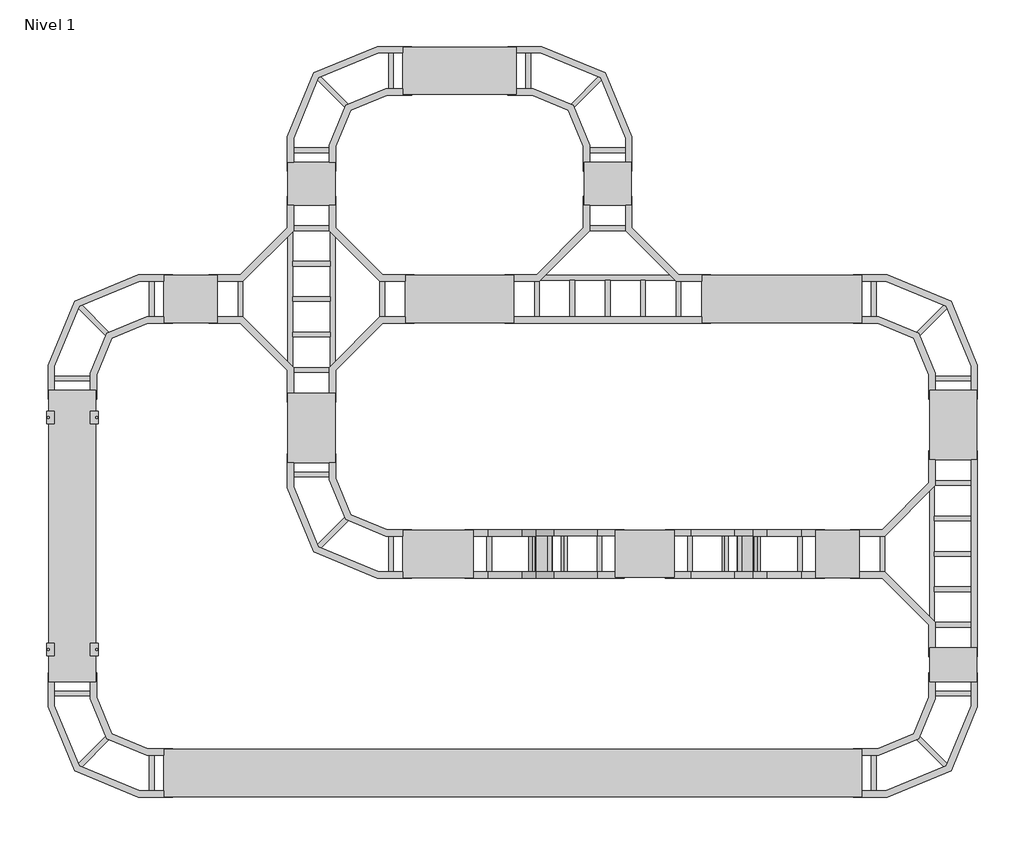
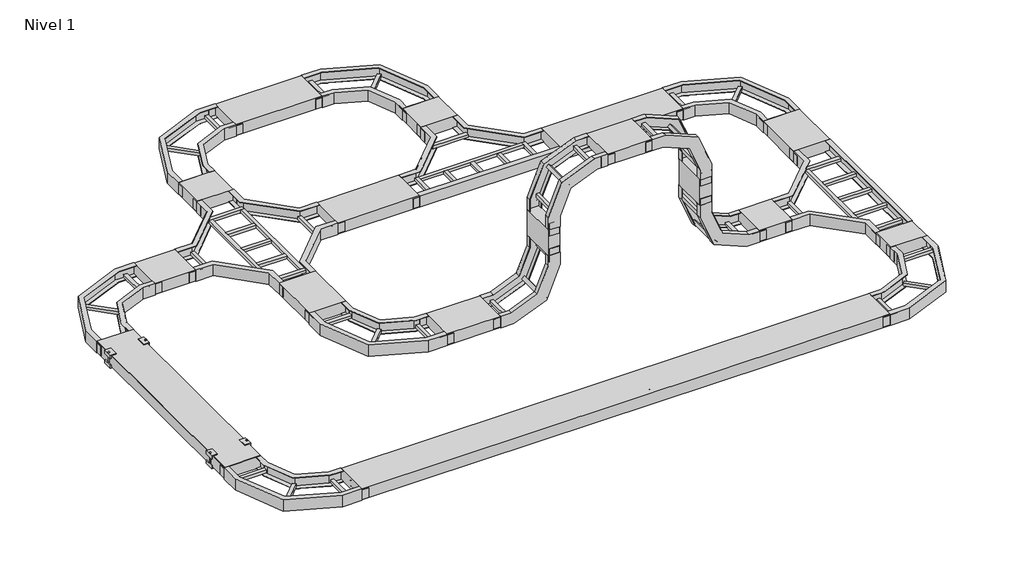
# One storey: 70 proxies, 16 cable carrier segments, 14 cable carrier fittings.
"""IFC4 building model written with IfcOpenShell, lengths in millimetres."""

from ifc_helpers import new_model, si_unit, frame, origin, place, context, project, spatial, polyline, outline, extrude, transform, mapped, element, save
from components import generic_models_9493494c, generic_models_a3b5af0d, generic_models_2f859a22, generic_models_482fbde5, cable_carrier_fitting_e89e6434, cable_carrier_fitting_75f20afa, cable_carrier_fitting_1d535282, cable_carrier_fitting_ade1a343, cable_carrier_fitting_ab937569

model = new_model("IFC4")

# Units and contexts
model_context = context("Model", 3, world=origin())
ifc_project = project(units=[si_unit("LENGTHUNIT", "METRE", prefix="MILLI")], contexts=[model_context])

# Site, building, storey
site = spatial("IfcSite", under=ifc_project)
building = spatial("IfcBuilding", under=site)
storey = spatial("IfcBuildingStorey", under=building, Name="Nivel 1", Elevation=0.0)

# Proxies
placement = place(None, origin())
generic_models_shape = generic_models_9493494c(model_context)
element("IfcBuildingElementProxy", 1, Name="Cable_Ladder_CoverRetainer_PTEFV_Fibertrav : Fibertrav PTEFV 4", ObjectType="Cable_Ladder_CoverRetainer_PTEFV_Fibertrav : Fibertrav PTEFV 4", at=placement, inside=storey, context=model_context, shape_type="MappedRepresentation", body=[
    mapped(generic_models_shape, transform((-12210.7457726, -1908.928521, -144.8359375), x_axis=(1.0, 0.0, 0.0), y_axis=(0.0, 1.0, 0.0), z_axis=(0.0, 0.0, 1.0))),
])
element("IfcBuildingElementProxy", 2, Name="Cable_Ladder_CoverRetainer_PTEFV_Fibertrav : Fibertrav PTEFV 4", ObjectType="Cable_Ladder_CoverRetainer_PTEFV_Fibertrav : Fibertrav PTEFV 4", at=placement, inside=storey, context=model_context, shape_type="MappedRepresentation", body=[
    mapped(generic_models_shape, transform((-12210.7457726, -412.1412529, -144.8359375), x_axis=(1.0, 0.0, 0.0), y_axis=(0.0, 1.0, 0.0), z_axis=(0.0, 0.0, 1.0))),
])
element("IfcBuildingElementProxy", 3, Name="Cable_Ladder_CoverRetainer_PTEFV_Fibertrav : Fibertrav PTEFV 4", ObjectType="Cable_Ladder_CoverRetainer_PTEFV_Fibertrav : Fibertrav PTEFV 4", at=placement, inside=storey, context=model_context, shape_type="MappedRepresentation", body=[
    mapped(generic_models_shape, transform((-11877.6975459, -1933.928521, -144.8359375), x_axis=(-1.0, 0.0, 0.0), y_axis=(0.0, -1.0, 0.0), z_axis=(0.0, 0.0, 1.0))),
])
element("IfcBuildingElementProxy", 4, Name="Cable_Ladder_CoverRetainer_PTEFV_Fibertrav : Fibertrav PTEFV 4", ObjectType="Cable_Ladder_CoverRetainer_PTEFV_Fibertrav : Fibertrav PTEFV 4", at=placement, inside=storey, context=model_context, shape_type="MappedRepresentation", body=[
    mapped(generic_models_shape, transform((-11877.6975459, -437.1412529, -144.8359375), x_axis=(-1.0, 0.0, 0.0), y_axis=(0.0, -1.0, 0.0), z_axis=(0.0, 0.0, 1.0))),
])
generic_models_2_shape = generic_models_a3b5af0d(model_context)
element("IfcBuildingElementProxy", 5, Name="Cable_Tray_Divider_Profile_PSEFV_Fibertrav : Fibertrav PSEFV 4", ObjectType="Cable_Tray_Divider_Profile_PSEFV_Fibertrav : Fibertrav PSEFV 4", at=placement, inside=storey, context=model_context, shape_type="MappedRepresentation", body=[
    mapped(generic_models_2_shape, transform((-11455.1074144, -2721.1606147, -221.4671875), x_axis=(0.0, -1.0, 0.0), y_axis=(1.0, 0.0, 0.0), z_axis=(0.0, 0.0, 1.0))),
])
generic_models_3_shape = generic_models_2f859a22(model_context)
element("IfcBuildingElementProxy", 6, Name="JUEFV_Juction_H4-Fibertrav : Fibertrav JUEFV 4", ObjectType="JUEFV_Juction_H4-Fibertrav : Fibertrav JUEFV 4", at=placement, inside=storey, context=model_context, shape_type="MappedRepresentation", body=[
    mapped(generic_models_3_shape, transform((-6514.202932, -1912.2385635, -241.935694), x_axis=(0.9999999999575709, 0.0, 9.211855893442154e-06), y_axis=(0.0, 1.0, 0.0), z_axis=(-9.211855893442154e-06, 0.0, 0.9999999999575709))),
])
element("IfcBuildingElementProxy", 7, Name="JUEFV_Juction_H4-Fibertrav : Fibertrav JUEFV 4", ObjectType="JUEFV_Juction_H4-Fibertrav : Fibertrav JUEFV 4", at=placement, inside=storey, context=model_context, shape_type="MappedRepresentation", body=[
    mapped(generic_models_3_shape, transform((-6205.402932, -1912.2385635, -241.9328494), x_axis=(0.9999999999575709, 0.0, 9.211855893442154e-06), y_axis=(0.0, 1.0, 0.0), z_axis=(-9.211855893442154e-06, 0.0, 0.9999999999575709))),
])
element("IfcBuildingElementProxy", 8, Name="JUEFV_Juction_H4-Fibertrav : Fibertrav JUEFV 4", ObjectType="JUEFV_Juction_H4-Fibertrav : Fibertrav JUEFV 4", at=placement, inside=storey, context=model_context, shape_type="MappedRepresentation", body=[
    mapped(generic_models_3_shape, transform((-6514.2029319, -697.8385635, -241.935694), x_axis=(0.9999999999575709, 0.0, 9.211855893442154e-06), y_axis=(0.0, 1.0, 0.0), z_axis=(-9.211855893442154e-06, 0.0, 0.9999999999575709))),
])
element("IfcBuildingElementProxy", 9, Name="JUEFV_Juction_H4-Fibertrav : Fibertrav JUEFV 4", ObjectType="JUEFV_Juction_H4-Fibertrav : Fibertrav JUEFV 4", at=placement, inside=storey, context=model_context, shape_type="MappedRepresentation", body=[
    mapped(generic_models_3_shape, transform((-6205.4029319, -697.8385635, -241.9328494), x_axis=(0.9999999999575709, 0.0, 9.211855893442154e-06), y_axis=(0.0, 1.0, 0.0), z_axis=(-9.211855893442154e-06, 0.0, 0.9999999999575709))),
])
element("IfcBuildingElementProxy", 10, Name="JUEFV_Juction_H4-Fibertrav : Fibertrav JUEFV 4", ObjectType="JUEFV_Juction_H4-Fibertrav : Fibertrav JUEFV 4", at=placement, inside=storey, context=model_context, shape_type="MappedRepresentation", body=[
    mapped(generic_models_3_shape, transform((-8744.7507738, 947.1216549, -241.9562415), x_axis=(0.9999999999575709, 0.0, 9.211855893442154e-06), y_axis=(0.0, 1.0, 0.0), z_axis=(-9.211855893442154e-06, 0.0, 0.9999999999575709))),
])
element("IfcBuildingElementProxy", 11, Name="JUEFV_Juction_H4-Fibertrav : Fibertrav JUEFV 4", ObjectType="JUEFV_Juction_H4-Fibertrav : Fibertrav JUEFV 4", at=placement, inside=storey, context=model_context, shape_type="MappedRepresentation", body=[
    mapped(generic_models_3_shape, transform((-8435.9507738, 947.1216549, -241.9533968), x_axis=(0.9999999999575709, 0.0, 9.211855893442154e-06), y_axis=(0.0, 1.0, 0.0), z_axis=(-9.211855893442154e-06, 0.0, 0.9999999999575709))),
])
element("IfcBuildingElementProxy", 12, Name="JUEFV_Juction_H4-Fibertrav : Fibertrav JUEFV 4", ObjectType="JUEFV_Juction_H4-Fibertrav : Fibertrav JUEFV 4", at=placement, inside=storey, context=model_context, shape_type="MappedRepresentation", body=[
    mapped(generic_models_3_shape, transform((-10657.2902635, 947.1216549, -241.9738595), x_axis=(0.9999999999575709, 0.0, 9.211855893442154e-06), y_axis=(0.0, 1.0, 0.0), z_axis=(-9.211855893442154e-06, 0.0, 0.9999999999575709))),
])
element("IfcBuildingElementProxy", 13, Name="JUEFV_Juction_H4-Fibertrav : Fibertrav JUEFV 4", ObjectType="JUEFV_Juction_H4-Fibertrav : Fibertrav JUEFV 4", at=placement, inside=storey, context=model_context, shape_type="MappedRepresentation", body=[
    mapped(generic_models_3_shape, transform((-10348.4902635, 947.1216549, -241.9710149), x_axis=(0.9999999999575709, 0.0, 9.211855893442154e-06), y_axis=(0.0, 1.0, 0.0), z_axis=(-9.211855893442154e-06, 0.0, 0.9999999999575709))),
])
element("IfcBuildingElementProxy", 14, Name="JUEFV_Juction_H4-Fibertrav : Fibertrav JUEFV 4", ObjectType="JUEFV_Juction_H4-Fibertrav : Fibertrav JUEFV 4", at=placement, inside=storey, context=model_context, shape_type="MappedRepresentation", body=[
    mapped(generic_models_3_shape, transform((-6964.6056568, -1461.0412884, -241.939843), x_axis=(0.0, 1.0000000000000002, 0.0), y_axis=(-0.9999999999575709, 0.0, -9.211855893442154e-06), z_axis=(-9.211855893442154e-06, 0.0, 0.9999999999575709))),
])
element("IfcBuildingElementProxy", 15, Name="JUEFV_Juction_H4-Fibertrav : Fibertrav JUEFV 4", ObjectType="JUEFV_Juction_H4-Fibertrav : Fibertrav JUEFV 4", at=placement, inside=storey, context=model_context, shape_type="MappedRepresentation", body=[
    mapped(generic_models_3_shape, transform((-6964.6056568, -1152.2412884, -241.939843), x_axis=(0.0, 1.0000000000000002, 0.0), y_axis=(-0.9999999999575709, 0.0, -9.211855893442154e-06), z_axis=(-9.211855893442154e-06, 0.0, 0.9999999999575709))),
])
element("IfcBuildingElementProxy", 16, Name="JUEFV_Juction_H4-Fibertrav : Fibertrav JUEFV 4", ObjectType="JUEFV_Juction_H4-Fibertrav : Fibertrav JUEFV 4", at=placement, inside=storey, context=model_context, shape_type="MappedRepresentation", body=[
    mapped(generic_models_3_shape, transform((-7244.4669991, -1461.0412884, -241.9424211), x_axis=(0.0, 1.0000000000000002, 0.0), y_axis=(-0.9999999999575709, 0.0, -9.211855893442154e-06), z_axis=(-9.211855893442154e-06, 0.0, 0.9999999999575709))),
])
element("IfcBuildingElementProxy", 17, Name="JUEFV_Juction_H4-Fibertrav : Fibertrav JUEFV 4", ObjectType="JUEFV_Juction_H4-Fibertrav : Fibertrav JUEFV 4", at=placement, inside=storey, context=model_context, shape_type="MappedRepresentation", body=[
    mapped(generic_models_3_shape, transform((-7244.4669991, -1152.2412884, -241.9424211), x_axis=(0.0, 1.0000000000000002, 0.0), y_axis=(-0.9999999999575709, 0.0, -9.211855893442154e-06), z_axis=(-9.211855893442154e-06, 0.0, 0.9999999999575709))),
])
element("IfcBuildingElementProxy", 18, Name="JUEFV_Juction_H4-Fibertrav : Fibertrav JUEFV 4", ObjectType="JUEFV_Juction_H4-Fibertrav : Fibertrav JUEFV 4", at=placement, inside=storey, context=model_context, shape_type="MappedRepresentation", body=[
    mapped(generic_models_3_shape, transform((-7980.7534988, 183.91893, -241.9492036), x_axis=(0.0, 1.0000000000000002, 0.0), y_axis=(-0.9999999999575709, 0.0, -9.211855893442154e-06), z_axis=(-9.211855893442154e-06, 0.0, 0.9999999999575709))),
])
element("IfcBuildingElementProxy", 19, Name="JUEFV_Juction_H4-Fibertrav : Fibertrav JUEFV 4", ObjectType="JUEFV_Juction_H4-Fibertrav : Fibertrav JUEFV 4", at=placement, inside=storey, context=model_context, shape_type="MappedRepresentation", body=[
    mapped(generic_models_3_shape, transform((-7980.7534988, 492.71893, -241.9492036), x_axis=(0.0, 1.0000000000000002, 0.0), y_axis=(-0.9999999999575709, 0.0, -9.211855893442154e-06), z_axis=(-9.211855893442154e-06, 0.0, 0.9999999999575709))),
])
element("IfcBuildingElementProxy", 20, Name="JUEFV_Juction_H4-Fibertrav : Fibertrav JUEFV 4", ObjectType="JUEFV_Juction_H4-Fibertrav : Fibertrav JUEFV 4", at=placement, inside=storey, context=model_context, shape_type="MappedRepresentation", body=[
    mapped(generic_models_3_shape, transform((-9195.1534987, 183.91893, -241.9603905), x_axis=(0.0, 1.0000000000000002, 0.0), y_axis=(-0.9999999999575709, 0.0, -9.211855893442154e-06), z_axis=(-9.211855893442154e-06, 0.0, 0.9999999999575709))),
])
element("IfcBuildingElementProxy", 21, Name="JUEFV_Juction_H4-Fibertrav : Fibertrav JUEFV 4", ObjectType="JUEFV_Juction_H4-Fibertrav : Fibertrav JUEFV 4", at=placement, inside=storey, context=model_context, shape_type="MappedRepresentation", body=[
    mapped(generic_models_3_shape, transform((-9195.1534987, 492.71893, -241.9603905), x_axis=(0.0, 1.0000000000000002, 0.0), y_axis=(-0.9999999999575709, 0.0, -9.211855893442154e-06), z_axis=(-9.211855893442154e-06, 0.0, 0.9999999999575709))),
])
element("IfcBuildingElementProxy", 22, Name="JUEFV_Juction_H4-Fibertrav : Fibertrav JUEFV 4", ObjectType="JUEFV_Juction_H4-Fibertrav : Fibertrav JUEFV 4", at=placement, inside=storey, context=model_context, shape_type="MappedRepresentation", body=[
    mapped(generic_models_3_shape, transform((-9893.2929885, 183.91893, -241.9668217), x_axis=(0.0, 1.0000000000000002, 0.0), y_axis=(-0.9999999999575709, 0.0, -9.211855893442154e-06), z_axis=(-9.211855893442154e-06, 0.0, 0.9999999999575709))),
])
element("IfcBuildingElementProxy", 23, Name="JUEFV_Juction_H4-Fibertrav : Fibertrav JUEFV 4", ObjectType="JUEFV_Juction_H4-Fibertrav : Fibertrav JUEFV 4", at=placement, inside=storey, context=model_context, shape_type="MappedRepresentation", body=[
    mapped(generic_models_3_shape, transform((-9893.2929885, 492.71893, -241.9668217), x_axis=(0.0, 1.0000000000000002, 0.0), y_axis=(-0.9999999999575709, 0.0, -9.211855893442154e-06), z_axis=(-9.211855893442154e-06, 0.0, 0.9999999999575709))),
])
element("IfcBuildingElementProxy", 24, Name="JUEFV_Juction_H4-Fibertrav : Fibertrav JUEFV 4", ObjectType="JUEFV_Juction_H4-Fibertrav : Fibertrav JUEFV 4", at=placement, inside=storey, context=model_context, shape_type="MappedRepresentation", body=[
    mapped(generic_models_3_shape, transform((-11107.6929884, 183.91893, -241.9780085), x_axis=(0.0, 1.0000000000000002, 0.0), y_axis=(-0.9999999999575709, 0.0, -9.211855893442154e-06), z_axis=(-9.211855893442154e-06, 0.0, 0.9999999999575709))),
])
element("IfcBuildingElementProxy", 25, Name="JUEFV_Juction_H4-Fibertrav : Fibertrav JUEFV 4", ObjectType="JUEFV_Juction_H4-Fibertrav : Fibertrav JUEFV 4", at=placement, inside=storey, context=model_context, shape_type="MappedRepresentation", body=[
    mapped(generic_models_3_shape, transform((-11107.6929884, 492.71893, -241.9780085), x_axis=(0.0, 1.0000000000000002, 0.0), y_axis=(-0.9999999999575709, 0.0, -9.211855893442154e-06), z_axis=(-9.211855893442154e-06, 0.0, 0.9999999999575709))),
])
element("IfcBuildingElementProxy", 26, Name="JUEFV_Juction_H4-Fibertrav : Fibertrav JUEFV 4", ObjectType="JUEFV_Juction_H4-Fibertrav : Fibertrav JUEFV 4", at=placement, inside=storey, context=model_context, shape_type="MappedRepresentation", body=[
    mapped(generic_models_3_shape, transform((-9454.2669987, -1461.0412884, -241.9627774), x_axis=(0.0, 1.0000000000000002, 0.0), y_axis=(-0.9999999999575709, 0.0, -9.211855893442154e-06), z_axis=(-9.211855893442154e-06, 0.0, 0.9999999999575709))),
])
element("IfcBuildingElementProxy", 27, Name="JUEFV_Juction_H4-Fibertrav : Fibertrav JUEFV 4", ObjectType="JUEFV_Juction_H4-Fibertrav : Fibertrav JUEFV 4", at=placement, inside=storey, context=model_context, shape_type="MappedRepresentation", body=[
    mapped(generic_models_3_shape, transform((-9454.2669987, -1152.2412884, -241.9627774), x_axis=(0.0, 1.0000000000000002, 0.0), y_axis=(-0.9999999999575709, 0.0, -9.211855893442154e-06), z_axis=(-9.211855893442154e-06, 0.0, 0.9999999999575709))),
])
element("IfcBuildingElementProxy", 28, Name="JUEFV_Juction_H4-Fibertrav : Fibertrav JUEFV 4", ObjectType="JUEFV_Juction_H4-Fibertrav : Fibertrav JUEFV 4", at=placement, inside=storey, context=model_context, shape_type="MappedRepresentation", body=[
    mapped(generic_models_3_shape, transform((-8539.8619481, -1461.0412884, 903.2079781), x_axis=(0.0, 1.0, 0.0), y_axis=(-1.0, 0.0, 0.0), z_axis=(0.0, 0.0, 1.0))),
])
element("IfcBuildingElementProxy", 29, Name="JUEFV_Juction_H4-Fibertrav : Fibertrav JUEFV 4", ObjectType="JUEFV_Juction_H4-Fibertrav : Fibertrav JUEFV 4", at=placement, inside=storey, context=model_context, shape_type="MappedRepresentation", body=[
    mapped(generic_models_3_shape, transform((-8539.8619481, -1152.2412884, 903.2079781), x_axis=(0.0, 1.0, 0.0), y_axis=(-1.0, 0.0, 0.0), z_axis=(0.0, 0.0, 1.0))),
])
element("IfcBuildingElementProxy", 30, Name="JUEFV_Juction_H4-Fibertrav : Fibertrav JUEFV 4", ObjectType="JUEFV_Juction_H4-Fibertrav : Fibertrav JUEFV 4", at=placement, inside=storey, context=model_context, shape_type="MappedRepresentation", body=[
    mapped(generic_models_3_shape, transform((-8158.8673978, -1461.0412884, 903.2079781), x_axis=(0.0, 1.0, 0.0), y_axis=(-1.0, 0.0, 0.0), z_axis=(0.0, 0.0, 1.0))),
])
element("IfcBuildingElementProxy", 31, Name="JUEFV_Juction_H4-Fibertrav : Fibertrav JUEFV 4", ObjectType="JUEFV_Juction_H4-Fibertrav : Fibertrav JUEFV 4", at=placement, inside=storey, context=model_context, shape_type="MappedRepresentation", body=[
    mapped(generic_models_3_shape, transform((-8158.8673978, -1152.2412884, 903.2079781), x_axis=(0.0, 1.0, 0.0), y_axis=(-1.0, 0.0, 0.0), z_axis=(0.0, 0.0, 1.0))),
])
element("IfcBuildingElementProxy", 32, Name="JUEFV_Juction_H4-Fibertrav : Fibertrav JUEFV 4", ObjectType="JUEFV_Juction_H4-Fibertrav : Fibertrav JUEFV 4", at=placement, inside=storey, context=model_context, shape_type="MappedRepresentation", body=[
    mapped(generic_models_3_shape, transform((-7658.764673, -1148.2412884, 489.710703), x_axis=(0.0, -1.0, 0.0), y_axis=(0.0, 0.0, 1.0), z_axis=(-1.0, 0.0, 0.0))),
])
element("IfcBuildingElementProxy", 33, Name="JUEFV_Juction_H4-Fibertrav : Fibertrav JUEFV 4", ObjectType="JUEFV_Juction_H4-Fibertrav : Fibertrav JUEFV 4", at=placement, inside=storey, context=model_context, shape_type="MappedRepresentation", body=[
    mapped(generic_models_3_shape, transform((-7658.764673, -1457.0412884, 489.710703), x_axis=(0.0, -1.0, 0.0), y_axis=(0.0, 0.0, 1.0), z_axis=(-1.0, 0.0, 0.0))),
])
element("IfcBuildingElementProxy", 34, Name="JUEFV_Juction_H4-Fibertrav : Fibertrav JUEFV 4", ObjectType="JUEFV_Juction_H4-Fibertrav : Fibertrav JUEFV 4", at=placement, inside=storey, context=model_context, shape_type="MappedRepresentation", body=[
    mapped(generic_models_3_shape, transform((-7658.764673, -1148.2412884, 258.1512496), x_axis=(0.0, -1.0, 0.0), y_axis=(0.0, 0.0, 1.0), z_axis=(-1.0, 0.0, 0.0))),
])
element("IfcBuildingElementProxy", 35, Name="JUEFV_Juction_H4-Fibertrav : Fibertrav JUEFV 4", ObjectType="JUEFV_Juction_H4-Fibertrav : Fibertrav JUEFV 4", at=placement, inside=storey, context=model_context, shape_type="MappedRepresentation", body=[
    mapped(generic_models_3_shape, transform((-7658.764673, -1457.0412884, 258.1512496), x_axis=(0.0, -1.0, 0.0), y_axis=(0.0, 0.0, 1.0), z_axis=(-1.0, 0.0, 0.0))),
])
element("IfcBuildingElementProxy", 36, Name="JUEFV_Juction_H4-Fibertrav : Fibertrav JUEFV 4", ObjectType="JUEFV_Juction_H4-Fibertrav : Fibertrav JUEFV 4", at=placement, inside=storey, context=model_context, shape_type="MappedRepresentation", body=[
    mapped(generic_models_3_shape, transform((-9040.764673, -1461.0412884, 489.710703), x_axis=(0.0, 1.0, 0.0), y_axis=(0.0, 0.0, 1.0), z_axis=(1.0, 0.0, 0.0))),
])
element("IfcBuildingElementProxy", 37, Name="JUEFV_Juction_H4-Fibertrav : Fibertrav JUEFV 4", ObjectType="JUEFV_Juction_H4-Fibertrav : Fibertrav JUEFV 4", at=placement, inside=storey, context=model_context, shape_type="MappedRepresentation", body=[
    mapped(generic_models_3_shape, transform((-9040.764673, -1152.2412884, 489.710703), x_axis=(0.0, 1.0, 0.0), y_axis=(0.0, 0.0, 1.0), z_axis=(1.0, 0.0, 0.0))),
])
element("IfcBuildingElementProxy", 38, Name="JUEFV_Juction_H4-Fibertrav : Fibertrav JUEFV 4", ObjectType="JUEFV_Juction_H4-Fibertrav : Fibertrav JUEFV 4", at=placement, inside=storey, context=model_context, shape_type="MappedRepresentation", body=[
    mapped(generic_models_3_shape, transform((-9040.764673, -1461.0412884, 258.1512496), x_axis=(0.0, 1.0, 0.0), y_axis=(0.0, 0.0, 1.0), z_axis=(1.0, 0.0, 0.0))),
])
element("IfcBuildingElementProxy", 39, Name="JUEFV_Juction_H4-Fibertrav : Fibertrav JUEFV 4", ObjectType="JUEFV_Juction_H4-Fibertrav : Fibertrav JUEFV 4", at=placement, inside=storey, context=model_context, shape_type="MappedRepresentation", body=[
    mapped(generic_models_3_shape, transform((-9040.764673, -1152.2412884, 258.1512496), x_axis=(0.0, 1.0, 0.0), y_axis=(0.0, 0.0, 1.0), z_axis=(1.0, 0.0, 0.0))),
])
element("IfcBuildingElementProxy", 40, Name="JUEFV_Juction_H4-Fibertrav : Fibertrav JUEFV 4", ObjectType="JUEFV_Juction_H4-Fibertrav : Fibertrav JUEFV 4", at=placement, inside=storey, context=model_context, shape_type="MappedRepresentation", body=[
    mapped(generic_models_3_shape, transform((-6946.5199016, 183.91893, -241.9396764), x_axis=(0.0, 1.0000000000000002, 0.0), y_axis=(-0.9999999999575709, 0.0, -9.211855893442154e-06), z_axis=(-9.211855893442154e-06, 0.0, 0.9999999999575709))),
])
element("IfcBuildingElementProxy", 41, Name="JUEFV_Juction_H4-Fibertrav : Fibertrav JUEFV 4", ObjectType="JUEFV_Juction_H4-Fibertrav : Fibertrav JUEFV 4", at=placement, inside=storey, context=model_context, shape_type="MappedRepresentation", body=[
    mapped(generic_models_3_shape, transform((-6946.5199016, 492.71893, -241.9396764), x_axis=(0.0, 1.0000000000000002, 0.0), y_axis=(-0.9999999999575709, 0.0, -9.211855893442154e-06), z_axis=(-9.211855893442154e-06, 0.0, 0.9999999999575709))),
])
element("IfcBuildingElementProxy", 42, Name="JUEFV_Juction_H4-Fibertrav : Fibertrav JUEFV 4", ObjectType="JUEFV_Juction_H4-Fibertrav : Fibertrav JUEFV 4", at=placement, inside=storey, context=model_context, shape_type="MappedRepresentation", body=[
    mapped(generic_models_3_shape, transform((-9177.0677435, 1657.6756733, -241.9602239), x_axis=(0.0, 1.0000000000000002, 0.0), y_axis=(-0.9999999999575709, 0.0, -9.211855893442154e-06), z_axis=(-9.211855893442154e-06, 0.0, 0.9999999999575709))),
])
element("IfcBuildingElementProxy", 43, Name="JUEFV_Juction_H4-Fibertrav : Fibertrav JUEFV 4", ObjectType="JUEFV_Juction_H4-Fibertrav : Fibertrav JUEFV 4", at=placement, inside=storey, context=model_context, shape_type="MappedRepresentation", body=[
    mapped(generic_models_3_shape, transform((-9177.0677435, 1966.4756733, -241.9602239), x_axis=(0.0, 1.0000000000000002, 0.0), y_axis=(-0.9999999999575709, 0.0, -9.211855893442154e-06), z_axis=(-9.211855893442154e-06, 0.0, 0.9999999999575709))),
])
element("IfcBuildingElementProxy", 44, Name="JUEFV_Juction_H4-Fibertrav : Fibertrav JUEFV 4", ObjectType="JUEFV_Juction_H4-Fibertrav : Fibertrav JUEFV 4", at=placement, inside=storey, context=model_context, shape_type="MappedRepresentation", body=[
    mapped(generic_models_3_shape, transform((-8744.7507738, 1224.5641534, -241.9562415), x_axis=(0.9999999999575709, 0.0, 9.211855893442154e-06), y_axis=(0.0, 1.0, 0.0), z_axis=(-9.211855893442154e-06, 0.0, 0.9999999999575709))),
])
element("IfcBuildingElementProxy", 45, Name="JUEFV_Juction_H4-Fibertrav : Fibertrav JUEFV 4", ObjectType="JUEFV_Juction_H4-Fibertrav : Fibertrav JUEFV 4", at=placement, inside=storey, context=model_context, shape_type="MappedRepresentation", body=[
    mapped(generic_models_3_shape, transform((-8435.9507738, 1224.5641534, -241.9533968), x_axis=(0.9999999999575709, 0.0, 9.211855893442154e-06), y_axis=(0.0, 1.0, 0.0), z_axis=(-9.211855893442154e-06, 0.0, 0.9999999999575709))),
])
element("IfcBuildingElementProxy", 46, Name="JUEFV_Juction_H4-Fibertrav : Fibertrav JUEFV 4", ObjectType="JUEFV_Juction_H4-Fibertrav : Fibertrav JUEFV 4", at=placement, inside=storey, context=model_context, shape_type="MappedRepresentation", body=[
    mapped(generic_models_3_shape, transform((-9911.3787437, 1657.6756733, -241.9669883), x_axis=(0.0, 1.0000000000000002, 0.0), y_axis=(-0.9999999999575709, 0.0, -9.211855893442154e-06), z_axis=(-9.211855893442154e-06, 0.0, 0.9999999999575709))),
])
element("IfcBuildingElementProxy", 47, Name="JUEFV_Juction_H4-Fibertrav : Fibertrav JUEFV 4", ObjectType="JUEFV_Juction_H4-Fibertrav : Fibertrav JUEFV 4", at=placement, inside=storey, context=model_context, shape_type="MappedRepresentation", body=[
    mapped(generic_models_3_shape, transform((-9911.3787437, 1966.4756733, -241.9669883), x_axis=(0.0, 1.0000000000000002, 0.0), y_axis=(-0.9999999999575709, 0.0, -9.211855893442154e-06), z_axis=(-9.211855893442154e-06, 0.0, 0.9999999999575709))),
])
element("IfcBuildingElementProxy", 48, Name="JUEFV_Juction_H4-Fibertrav : Fibertrav JUEFV 4", ObjectType="JUEFV_Juction_H4-Fibertrav : Fibertrav JUEFV 4", at=placement, inside=storey, context=model_context, shape_type="MappedRepresentation", body=[
    mapped(generic_models_3_shape, transform((-10657.2902635, 1224.5641534, -241.9738595), x_axis=(0.9999999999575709, 0.0, 9.211855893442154e-06), y_axis=(0.0, 1.0, 0.0), z_axis=(-9.211855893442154e-06, 0.0, 0.9999999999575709))),
])
element("IfcBuildingElementProxy", 49, Name="JUEFV_Juction_H4-Fibertrav : Fibertrav JUEFV 4", ObjectType="JUEFV_Juction_H4-Fibertrav : Fibertrav JUEFV 4", at=placement, inside=storey, context=model_context, shape_type="MappedRepresentation", body=[
    mapped(generic_models_3_shape, transform((-10348.4902635, 1224.5641534, -241.9710149), x_axis=(0.9999999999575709, 0.0, 9.211855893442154e-06), y_axis=(0.0, 1.0, 0.0), z_axis=(-9.211855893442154e-06, 0.0, 0.9999999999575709))),
])
element("IfcBuildingElementProxy", 50, Name="JUEFV_Juction_H4-Fibertrav : Fibertrav JUEFV 4", ObjectType="JUEFV_Juction_H4-Fibertrav : Fibertrav JUEFV 4", at=placement, inside=storey, context=model_context, shape_type="MappedRepresentation", body=[
    mapped(generic_models_3_shape, transform((-11454.70974, 183.91893, -241.9812052), x_axis=(0.0, 1.0000000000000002, 0.0), y_axis=(-0.9999999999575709, 0.0, -9.211855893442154e-06), z_axis=(-9.211855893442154e-06, 0.0, 0.9999999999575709))),
])
element("IfcBuildingElementProxy", 51, Name="JUEFV_Juction_H4-Fibertrav : Fibertrav JUEFV 4", ObjectType="JUEFV_Juction_H4-Fibertrav : Fibertrav JUEFV 4", at=placement, inside=storey, context=model_context, shape_type="MappedRepresentation", body=[
    mapped(generic_models_3_shape, transform((-11454.70974, 492.71893, -241.9812052), x_axis=(0.0, 1.0000000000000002, 0.0), y_axis=(-0.9999999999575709, 0.0, -9.211855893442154e-06), z_axis=(-9.211855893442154e-06, 0.0, 0.9999999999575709))),
])
element("IfcBuildingElementProxy", 52, Name="JUEFV_Juction_H4-Fibertrav : Fibertrav JUEFV 4", ObjectType="JUEFV_Juction_H4-Fibertrav : Fibertrav JUEFV 4", at=placement, inside=storey, context=model_context, shape_type="MappedRepresentation", body=[
    mapped(generic_models_3_shape, transform((-10657.2902635, -267.2783451, -241.9738595), x_axis=(0.9999999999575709, 0.0, 9.211855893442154e-06), y_axis=(0.0, 1.0, 0.0), z_axis=(-9.211855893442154e-06, 0.0, 0.9999999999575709))),
])
element("IfcBuildingElementProxy", 53, Name="JUEFV_Juction_H4-Fibertrav : Fibertrav JUEFV 4", ObjectType="JUEFV_Juction_H4-Fibertrav : Fibertrav JUEFV 4", at=placement, inside=storey, context=model_context, shape_type="MappedRepresentation", body=[
    mapped(generic_models_3_shape, transform((-10348.4902635, -267.2783451, -241.9710149), x_axis=(0.9999999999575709, 0.0, 9.211855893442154e-06), y_axis=(0.0, 1.0, 0.0), z_axis=(-9.211855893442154e-06, 0.0, 0.9999999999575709))),
])
element("IfcBuildingElementProxy", 54, Name="JUEFV_Juction_H4-Fibertrav : Fibertrav JUEFV 4", ObjectType="JUEFV_Juction_H4-Fibertrav : Fibertrav JUEFV 4", at=placement, inside=storey, context=model_context, shape_type="MappedRepresentation", body=[
    mapped(generic_models_3_shape, transform((-10657.2902635, -715.9243187, -241.9738595), x_axis=(0.9999999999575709, 0.0, 9.211855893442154e-06), y_axis=(0.0, 1.0, 0.0), z_axis=(-9.211855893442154e-06, 0.0, 0.9999999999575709))),
])
element("IfcBuildingElementProxy", 55, Name="JUEFV_Juction_H4-Fibertrav : Fibertrav JUEFV 4", ObjectType="JUEFV_Juction_H4-Fibertrav : Fibertrav JUEFV 4", at=placement, inside=storey, context=model_context, shape_type="MappedRepresentation", body=[
    mapped(generic_models_3_shape, transform((-10348.4902635, -715.9243187, -241.9710149), x_axis=(0.9999999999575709, 0.0, 9.211855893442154e-06), y_axis=(0.0, 1.0, 0.0), z_axis=(-9.211855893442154e-06, 0.0, 0.9999999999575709))),
])
element("IfcBuildingElementProxy", 56, Name="JUEFV_Juction_H4-Fibertrav : Fibertrav JUEFV 4", ObjectType="JUEFV_Juction_H4-Fibertrav : Fibertrav JUEFV 4", at=placement, inside=storey, context=model_context, shape_type="MappedRepresentation", body=[
    mapped(generic_models_3_shape, transform((-9911.3787437, -1461.0412884, -241.9669883), x_axis=(0.0, 1.0000000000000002, 0.0), y_axis=(-0.9999999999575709, 0.0, -9.211855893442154e-06), z_axis=(-9.211855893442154e-06, 0.0, 0.9999999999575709))),
])
element("IfcBuildingElementProxy", 57, Name="JUEFV_Juction_H4-Fibertrav : Fibertrav JUEFV 4", ObjectType="JUEFV_Juction_H4-Fibertrav : Fibertrav JUEFV 4", at=placement, inside=storey, context=model_context, shape_type="MappedRepresentation", body=[
    mapped(generic_models_3_shape, transform((-9911.3787437, -1152.2412884, -241.9669883), x_axis=(0.0, 1.0000000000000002, 0.0), y_axis=(-0.9999999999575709, 0.0, -9.211855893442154e-06), z_axis=(-9.211855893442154e-06, 0.0, 0.9999999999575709))),
])
element("IfcBuildingElementProxy", 58, Name="JUEFV_Juction_H4-Fibertrav : Fibertrav JUEFV 4", ObjectType="JUEFV_Juction_H4-Fibertrav : Fibertrav JUEFV 4", at=placement, inside=storey, context=model_context, shape_type="MappedRepresentation", body=[
    mapped(generic_models_3_shape, transform((-12200.6212599, -249.1925899, -241.9880764), x_axis=(0.9999999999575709, 0.0, 9.211855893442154e-06), y_axis=(0.0, 1.0, 0.0), z_axis=(-9.211855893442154e-06, 0.0, 0.9999999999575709))),
])
element("IfcBuildingElementProxy", 59, Name="JUEFV_Juction_H4-Fibertrav : Fibertrav JUEFV 4", ObjectType="JUEFV_Juction_H4-Fibertrav : Fibertrav JUEFV 4", at=placement, inside=storey, context=model_context, shape_type="MappedRepresentation", body=[
    mapped(generic_models_3_shape, transform((-11891.8212599, -249.1925899, -241.9852318), x_axis=(0.9999999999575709, 0.0, 9.211855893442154e-06), y_axis=(0.0, 1.0, 0.0), z_axis=(-9.211855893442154e-06, 0.0, 0.9999999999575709))),
])
element("IfcBuildingElementProxy", 60, Name="JUEFV_Juction_H4-Fibertrav : Fibertrav JUEFV 4", ObjectType="JUEFV_Juction_H4-Fibertrav : Fibertrav JUEFV 4", at=placement, inside=storey, context=model_context, shape_type="MappedRepresentation", body=[
    mapped(generic_models_3_shape, transform((-12200.6212599, -2129.8594025, -241.9880764), x_axis=(0.9999999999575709, 0.0, 9.211855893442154e-06), y_axis=(0.0, 1.0, 0.0), z_axis=(-9.211855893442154e-06, 0.0, 0.9999999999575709))),
])
element("IfcBuildingElementProxy", 61, Name="JUEFV_Juction_H4-Fibertrav : Fibertrav JUEFV 4", ObjectType="JUEFV_Juction_H4-Fibertrav : Fibertrav JUEFV 4", at=placement, inside=storey, context=model_context, shape_type="MappedRepresentation", body=[
    mapped(generic_models_3_shape, transform((-11891.8212599, -2129.8594025, -241.9852318), x_axis=(0.9999999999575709, 0.0, 9.211855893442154e-06), y_axis=(0.0, 1.0, 0.0), z_axis=(-9.211855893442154e-06, 0.0, 0.9999999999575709))),
])
element("IfcBuildingElementProxy", 62, Name="JUEFV_Juction_H4-Fibertrav : Fibertrav JUEFV 4", ObjectType="JUEFV_Juction_H4-Fibertrav : Fibertrav JUEFV 4", at=placement, inside=storey, context=model_context, shape_type="MappedRepresentation", body=[
    mapped(generic_models_3_shape, transform((-11454.70974, -2874.9763721, -241.9812052), x_axis=(0.0, 1.0000000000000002, 0.0), y_axis=(-0.9999999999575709, 0.0, -9.211855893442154e-06), z_axis=(-9.211855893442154e-06, 0.0, 0.9999999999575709))),
])
element("IfcBuildingElementProxy", 63, Name="JUEFV_Juction_H4-Fibertrav : Fibertrav JUEFV 4", ObjectType="JUEFV_Juction_H4-Fibertrav : Fibertrav JUEFV 4", at=placement, inside=storey, context=model_context, shape_type="MappedRepresentation", body=[
    mapped(generic_models_3_shape, transform((-11454.70974, -2566.1763721, -241.9812052), x_axis=(0.0, 1.0000000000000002, 0.0), y_axis=(-0.9999999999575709, 0.0, -9.211855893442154e-06), z_axis=(-9.211855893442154e-06, 0.0, 0.9999999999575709))),
])
element("IfcBuildingElementProxy", 64, Name="JUEFV_Juction_H4-Fibertrav : Fibertrav JUEFV 4", ObjectType="JUEFV_Juction_H4-Fibertrav : Fibertrav JUEFV 4", at=placement, inside=storey, context=model_context, shape_type="MappedRepresentation", body=[
    mapped(generic_models_3_shape, transform((-6514.2029319, -249.1925899, -241.935694), x_axis=(0.9999999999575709, 0.0, 9.211855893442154e-06), y_axis=(0.0, 1.0, 0.0), z_axis=(-9.211855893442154e-06, 0.0, 0.9999999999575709))),
])
element("IfcBuildingElementProxy", 65, Name="JUEFV_Juction_H4-Fibertrav : Fibertrav JUEFV 4", ObjectType="JUEFV_Juction_H4-Fibertrav : Fibertrav JUEFV 4", at=placement, inside=storey, context=model_context, shape_type="MappedRepresentation", body=[
    mapped(generic_models_3_shape, transform((-6205.4029319, -249.1925899, -241.9328494), x_axis=(0.9999999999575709, 0.0, 9.211855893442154e-06), y_axis=(0.0, 1.0, 0.0), z_axis=(-9.211855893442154e-06, 0.0, 0.9999999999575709))),
])
element("IfcBuildingElementProxy", 66, Name="JUEFV_Juction_H4-Fibertrav : Fibertrav JUEFV 4", ObjectType="JUEFV_Juction_H4-Fibertrav : Fibertrav JUEFV 4", at=placement, inside=storey, context=model_context, shape_type="MappedRepresentation", body=[
    mapped(generic_models_3_shape, transform((-6514.202932, -2129.8594025, -241.935694), x_axis=(0.9999999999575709, 0.0, 9.211855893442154e-06), y_axis=(0.0, 1.0, 0.0), z_axis=(-9.211855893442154e-06, 0.0, 0.9999999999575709))),
])
element("IfcBuildingElementProxy", 67, Name="JUEFV_Juction_H4-Fibertrav : Fibertrav JUEFV 4", ObjectType="JUEFV_Juction_H4-Fibertrav : Fibertrav JUEFV 4", at=placement, inside=storey, context=model_context, shape_type="MappedRepresentation", body=[
    mapped(generic_models_3_shape, transform((-6205.402932, -2129.8594025, -241.9328494), x_axis=(0.9999999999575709, 0.0, 9.211855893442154e-06), y_axis=(0.0, 1.0, 0.0), z_axis=(-9.211855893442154e-06, 0.0, 0.9999999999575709))),
])
element("IfcBuildingElementProxy", 68, Name="JUEFV_Juction_H4-Fibertrav : Fibertrav JUEFV 4", ObjectType="JUEFV_Juction_H4-Fibertrav : Fibertrav JUEFV 4", at=placement, inside=storey, context=model_context, shape_type="MappedRepresentation", body=[
    mapped(generic_models_3_shape, transform((-6946.5199016, -2874.9763721, -241.9396764), x_axis=(0.0, 1.0000000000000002, 0.0), y_axis=(-0.9999999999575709, 0.0, -9.211855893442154e-06), z_axis=(-9.211855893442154e-06, 0.0, 0.9999999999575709))),
])
element("IfcBuildingElementProxy", 69, Name="JUEFV_Juction_H4-Fibertrav : Fibertrav JUEFV 4", ObjectType="JUEFV_Juction_H4-Fibertrav : Fibertrav JUEFV 4", at=placement, inside=storey, context=model_context, shape_type="MappedRepresentation", body=[
    mapped(generic_models_3_shape, transform((-6946.5199016, -2566.1763721, -241.9396764), x_axis=(0.0, 1.0000000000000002, 0.0), y_axis=(-0.9999999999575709, 0.0, -9.211855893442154e-06), z_axis=(-9.211855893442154e-06, 0.0, 0.9999999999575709))),
])
generic_models_4_shape = generic_models_482fbde5(model_context)
element("IfcBuildingElementProxy", 70, Name="Cable_Ladder_Cover_TEFV-_Fibertrav : Fibertrav TEFV 12 3M", ObjectType="Cable_Ladder_Cover_TEFV-_Fibertrav : Fibertrav TEFV 12 3M", at=placement, inside=storey, context=model_context, shape_type="MappedRepresentation", body=[
    mapped(generic_models_4_shape, transform((-12044.2216592, -248.7953148, -147.8359375), x_axis=(-1.0, 0.0, 0.0), y_axis=(0.0, -1.0, 0.0), z_axis=(0.0, 0.0, 1.0))),
])

# Cable carrier fittings
cable_carrier_fitting_shape = cable_carrier_fitting_e89e6434(model_context)
element("IfcCableCarrierFitting", 71, ObjectType="CREFV_Horizontal Cross-Over-Fibertrav : Fibertrav CREFV-12", at=placement, inside=storey, context=model_context, shape_type="MappedRepresentation", body=[
    mapped(cable_carrier_fitting_shape, transform((-10500.8906627, 340.31893, -198.6359375), x_axis=(0.0, -1.0, 0.0), y_axis=(1.0, 0.0, 0.0), z_axis=(0.0, 0.0, 1.0))),
])
cable_carrier_fitting_2_shape = cable_carrier_fitting_75f20afa(model_context)
element("IfcCableCarrierFitting", 72, ObjectType="TEEFV_Horizontal Tee-Fibertrav : Fibertrav TEEFV-12", at=placement, inside=storey, context=model_context, shape_type="MappedRepresentation", body=[
    mapped(cable_carrier_fitting_2_shape, transform((-6357.8033308, -1304.6412884, -198.628), x_axis=(0.0, -1.0, 0.0), y_axis=(0.9999999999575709, 0.0, 9.211855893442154e-06), z_axis=(-9.211855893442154e-06, 0.0, 0.9999999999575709))),
])
element("IfcCableCarrierFitting", 73, ObjectType="TEEFV_Horizontal Tee-Fibertrav : Fibertrav TEEFV-12", at=placement, inside=storey, context=model_context, shape_type="MappedRepresentation", body=[
    mapped(cable_carrier_fitting_2_shape, transform((-8588.3511729, 340.31893, -198.6359375), x_axis=(-1.0, 0.0, 0.0), y_axis=(0.0, -1.0, 0.0), z_axis=(0.0, 0.0, 1.0))),
])
cable_carrier_fitting_3_shape = cable_carrier_fitting_1d535282(model_context)
element("IfcCableCarrierFitting", 74, ObjectType="CXEFV_Vertical_Outside_Bend-Fibertrav : Fibertrav CXEFV-12", at=placement, inside=storey, context=model_context, shape_type="MappedRepresentation", body=[
    mapped(cable_carrier_fitting_3_shape, transform((-8997.464673, -1304.6412884, 946.5079781), x_axis=(0.0, 0.0, 1.0), y_axis=(1.0, 0.0, 0.0), z_axis=(0.0, 1.0, 0.0))),
])
element("IfcCableCarrierFitting", 75, ObjectType="CXEFV_Vertical_Outside_Bend-Fibertrav : Fibertrav CXEFV-12", at=placement, inside=storey, context=model_context, shape_type="MappedRepresentation", body=[
    mapped(cable_carrier_fitting_3_shape, transform((-7702.064673, -1304.6412884, 946.5079781), x_axis=(1.0, 0.0, 0.0), y_axis=(0.0, 0.0, -1.0), z_axis=(0.0, 1.0, 0.0))),
])
cable_carrier_fitting_4_shape = cable_carrier_fitting_ade1a343(model_context)
element("IfcCableCarrierFitting", 76, ObjectType="CPEFV_Horizontal_Bend-Fibertrav : Fibertrav CPEFV-12", at=placement, inside=storey, context=model_context, shape_type="MappedRepresentation", body=[
    mapped(cable_carrier_fitting_4_shape, transform((-6357.8033308, 340.31893, -198.6359375), x_axis=(0.0, 1.0, 0.0), y_axis=(-1.0, 0.0, 0.0), z_axis=(0.0, 0.0, 1.0))),
])
element("IfcCableCarrierFitting", 77, ObjectType="CPEFV_Horizontal_Bend-Fibertrav : Fibertrav CPEFV-12", at=placement, inside=storey, context=model_context, shape_type="MappedRepresentation", body=[
    mapped(cable_carrier_fitting_4_shape, transform((-6357.8033308, -2718.5763721, -198.6359375), x_axis=(1.0, 0.0, 0.0), y_axis=(0.0, 1.0, 0.0), z_axis=(0.0, 0.0, 1.0))),
])
element("IfcCableCarrierFitting", 78, ObjectType="CPEFV_Horizontal_Bend-Fibertrav : Fibertrav CPEFV-12", at=placement, inside=storey, context=model_context, shape_type="MappedRepresentation", body=[
    mapped(cable_carrier_fitting_4_shape, transform((-10500.8906627, 1814.0756733, -198.6359375), x_axis=(-1.0, 0.0, 0.0), y_axis=(0.0, -1.0, 0.0), z_axis=(0.0, 0.0, 1.0))),
])
element("IfcCableCarrierFitting", 79, ObjectType="CPEFV_Horizontal_Bend-Fibertrav : Fibertrav CPEFV-12", at=placement, inside=storey, context=model_context, shape_type="MappedRepresentation", body=[
    mapped(cable_carrier_fitting_4_shape, transform((-12044.2216592, -2718.5763721, -198.6359375), x_axis=(0.0, -1.0, 0.0), y_axis=(1.0, 0.0, 0.0), z_axis=(0.0, 0.0, 1.0))),
])
element("IfcCableCarrierFitting", 80, ObjectType="CPEFV_Horizontal_Bend-Fibertrav : Fibertrav CPEFV-12", at=placement, inside=storey, context=model_context, shape_type="MappedRepresentation", body=[
    mapped(cable_carrier_fitting_4_shape, transform((-12044.2216592, 340.31893, -198.6359375), x_axis=(-1.0, 0.0, 0.0), y_axis=(0.0, -1.0, 0.0), z_axis=(0.0, 0.0, 1.0))),
])
element("IfcCableCarrierFitting", 81, ObjectType="CPEFV_Horizontal_Bend-Fibertrav : Fibertrav CPEFV-12", at=placement, inside=storey, context=model_context, shape_type="MappedRepresentation", body=[
    mapped(cable_carrier_fitting_4_shape, transform((-10500.8906627, -1304.6412884, -198.6359375), x_axis=(0.0, -1.0, 0.0), y_axis=(1.0, 0.0, 0.0), z_axis=(0.0, 0.0, 1.0))),
])
element("IfcCableCarrierFitting", 82, ObjectType="CPEFV_Horizontal_Bend-Fibertrav : Fibertrav CPEFV-12", at=placement, inside=storey, context=model_context, shape_type="MappedRepresentation", body=[
    mapped(cable_carrier_fitting_4_shape, transform((-8588.3511729, 1814.0756733, -198.6359375), x_axis=(0.0, 1.0, 0.0), y_axis=(-1.0, 0.0, 0.0), z_axis=(0.0, 0.0, 1.0))),
])
cable_carrier_fitting_5_shape = cable_carrier_fitting_ab937569(model_context)
element("IfcCableCarrierFitting", 83, ObjectType="CCEFV_Vertical_Inside_Bend-Fibertrav : Fibertrav CCEFV-12", at=placement, inside=storey, context=model_context, shape_type="MappedRepresentation", body=[
    mapped(cable_carrier_fitting_5_shape, transform((-8997.464673, -1304.6412884, -198.6359375), x_axis=(0.0, 0.0, -1.0), y_axis=(-1.0, 0.0, 0.0), z_axis=(0.0, 1.0, 0.0))),
])
element("IfcCableCarrierFitting", 84, ObjectType="CCEFV_Vertical_Inside_Bend-Fibertrav : Fibertrav CCEFV-12", at=placement, inside=storey, context=model_context, shape_type="MappedRepresentation", body=[
    mapped(cable_carrier_fitting_5_shape, transform((-7702.064673, -1304.6412884, -198.6514752), x_axis=(0.0, 0.0, -1.0), y_axis=(1.0, 0.0, 0.0), z_axis=(0.0, -1.0, 0.0))),
])

# Cable carrier segments
element("IfcCableCarrierSegment", 85, ObjectType="Fibertrav EFVS-9", at=placement, inside=storey, context=model_context, shape_type="SweptSolid", body=[
    extrude(outline(polyline([(-11891.8216592, -2129.4621274), (-12196.6216592, -2129.4621274), (-12196.6216592, -248.7953148), (-11891.8216592, -248.7953148), (-11891.8216592, -2129.4621274)])), frame((0.0, 0.0, -249.4359375), z_axis=(0.0, 0.0, 1.0), x_axis=(1.0, 0.0, 0.0)), (0.0, 0.0, 1.0), 101.6),
])
element("IfcCableCarrierSegment", 86, ObjectType="Fibertrav EFVS-9", at=placement, inside=storey, context=model_context, shape_type="SweptSolid", body=[
    extrude(outline(polyline([(-6510.2033308, -1911.8412884), (-6205.4033308, -1911.8412884), (-6205.4033308, -2129.4621274), (-6510.2033308, -2129.4621274), (-6510.2033308, -1911.8412884)])), frame((0.0, 0.0, -249.4359375), z_axis=(0.0, 0.0, 1.0), x_axis=(1.0, 0.0, 0.0)), (0.0, 0.0, 1.0), 101.6),
])
element("IfcCableCarrierSegment", 87, ObjectType="Fibertrav EFVS-9", at=placement, inside=storey, context=model_context, shape_type="SweptSolid", body=[
    extrude(outline(polyline([(0.0, -304.8), (0.0, 0.0), (277.4424985, 0.0), (277.4424985, -304.8), (0.0, -304.8)])), frame((-8435.9511729, 1224.9614285, -249.4359375), z_axis=(0.0, -1.4535137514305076e-12, 1.0), x_axis=(3.130232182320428e-12, -1.0, -1.4535137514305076e-12)), (0.0, 0.0, 1.0), 101.6),
])
element("IfcCableCarrierSegment", 88, ObjectType="Fibertrav EFVS-9", at=placement, inside=storey, context=model_context, shape_type="SweptSolid", body=[
    extrude(outline(polyline([(-8946.664673, -1152.2412884), (-8946.664673, -1457.0412884), (-9048.264673, -1457.0412884), (-9048.264673, -1152.2412884), (-8946.664673, -1152.2412884)])), frame((0.0, 0.0, 258.5640625), z_axis=(0.0, 0.0, 1.0), x_axis=(1.0, 0.0, 0.0)), (0.0, 0.0, 1.0), 230.7439156),
])
element("IfcCableCarrierSegment", 89, ObjectType="Fibertrav EFVS-9", at=placement, inside=storey, context=model_context, shape_type="SweptSolid", body=[
    extrude(outline(polyline([(-8540.264673, -1457.0412884), (-8540.264673, -1152.2412884), (-8159.264673, -1152.2412884), (-8159.264673, -1457.0412884), (-8540.264673, -1457.0412884)])), frame((0.0, 0.0, 895.7079781), z_axis=(0.0, 0.0, 1.0), x_axis=(1.0, 0.0, 0.0)), (0.0, 0.0, 1.0), 101.6),
])
element("IfcCableCarrierSegment", 90, ObjectType="Fibertrav EFVS-9", at=placement, inside=storey, context=model_context, shape_type="SweptSolid", body=[
    extrude(outline(polyline([(-7752.864673, -1457.0412884), (-7752.864673, -1152.2412884), (-7651.264673, -1152.2412884), (-7651.264673, -1457.0412884), (-7752.864673, -1457.0412884)])), frame((0.0, 0.0, 258.5485248), z_axis=(0.0, 0.0, 1.0), x_axis=(1.0, 0.0, 0.0)), (0.0, 0.0, 1.0), 230.7594534),
])
element("IfcCableCarrierSegment", 91, ObjectType="Fibertrav EFVS-6", at=placement, inside=storey, context=model_context, shape_type="SweptSolid", body=[
    extrude(outline(polyline([(-9911.7764179, -1457.0412884), (-9911.7764179, -1152.2412884), (-9454.664673, -1152.2412884), (-9454.664673, -1457.0412884), (-9911.7764179, -1457.0412884)])), frame((0.0, 0.0, -249.4359375), z_axis=(0.0, 0.0, 1.0), x_axis=(1.0, 0.0, 0.0)), (0.0, 0.0, 1.0), 101.6),
])
element("IfcCableCarrierSegment", 92, ObjectType="Fibertrav EFVS-9", at=placement, inside=storey, context=model_context, shape_type="SweptSolid", body=[
    extrude(outline(polyline([(-6946.9175756, -2566.1763721), (-6946.9175756, -2870.9763721), (-11455.1074144, -2870.9763721), (-11455.1074144, -2566.1763721), (-6946.9175756, -2566.1763721)])), frame((0.0, 0.0, -249.4359375), z_axis=(0.0, 0.0, 1.0), x_axis=(1.0, 0.0, 0.0)), (0.0, 0.0, 1.0), 101.6),
])
element("IfcCableCarrierSegment", 93, ObjectType="Fibertrav EFVS-9", at=placement, inside=storey, context=model_context, shape_type="SweptSolid", body=[
    extrude(outline(polyline([(-11108.0906627, 492.71893), (-11108.0906627, 187.91893), (-11455.1074144, 187.91893), (-11455.1074144, 492.71893), (-11108.0906627, 492.71893)])), frame((0.0, 0.0, -249.4359375), z_axis=(0.0, 0.0, 1.0), x_axis=(1.0, 0.0, 0.0)), (0.0, 0.0, 1.0), 101.6),
])
element("IfcCableCarrierSegment", 94, ObjectType="Fibertrav EFVS-9", at=placement, inside=storey, context=model_context, shape_type="SweptSolid", body=[
    extrude(outline(polyline([(-10348.4906627, 947.51893), (-10653.2906627, 947.51893), (-10653.2906627, 1224.9614285), (-10348.4906627, 1224.9614285), (-10348.4906627, 947.51893)])), frame((0.0, 0.0, -249.4359375), z_axis=(0.0, 0.0, 1.0), x_axis=(1.0, 0.0, 0.0)), (0.0, 0.0, 1.0), 101.6),
])
element("IfcCableCarrierSegment", 95, ObjectType="Fibertrav EFVS-9", at=placement, inside=storey, context=model_context, shape_type="SweptSolid", body=[
    extrude(outline(polyline([(-10653.2906627, -266.88107), (-10348.4906627, -266.88107), (-10348.4906627, -715.5270436), (-10653.2906627, -715.5270436), (-10653.2906627, -266.88107)])), frame((0.0, 0.0, -249.4359375), z_axis=(0.0, 0.0, 1.0), x_axis=(1.0, 0.0, 0.0)), (0.0, 0.0, 1.0), 101.6),
])
element("IfcCableCarrierSegment", 96, ObjectType="Fibertrav EFVS-9", at=placement, inside=storey, context=model_context, shape_type="SweptSolid", body=[
    extrude(outline(polyline([(-9911.7764179, 1661.6756733), (-9911.7764179, 1966.4756733), (-9177.4654177, 1966.4756733), (-9177.4654177, 1661.6756733), (-9911.7764179, 1661.6756733)])), frame((0.0, 0.0, -249.4359375), z_axis=(0.0, 0.0, 1.0), x_axis=(1.0, 0.0, 0.0)), (0.0, 0.0, 1.0), 101.6),
])
element("IfcCableCarrierSegment", 97, ObjectType="Fibertrav EFVS-9", at=placement, inside=storey, context=model_context, shape_type="SweptSolid", body=[
    extrude(outline(polyline([(0.0, -304.7999996), (0.0, 0.0), (279.8613428, 0.0), (279.8613428, -304.7999996), (0.0, -304.7999996)])), frame((-6965.0000849, -1457.0412882, -249.4335933), z_axis=(-6.38952504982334e-05, 0.0, 0.9999999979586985), x_axis=(-0.9999999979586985, 0.0, -6.38952504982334e-05)), (0.0, 0.0, 1.0), 101.5999998),
])
element("IfcCableCarrierSegment", 98, ObjectType="Fibertrav EFVS-9", at=placement, inside=storey, context=model_context, shape_type="SweptSolid", body=[
    extrude(outline(polyline([(-6205.4033308, -697.4412884), (-6510.2033308, -697.4412884), (-6510.2033308, -248.7953148), (-6205.4033308, -248.7953148), (-6205.4033308, -697.4412884)])), frame((0.0, 0.0, -249.428), z_axis=(0.0, 0.0, 1.0), x_axis=(1.0, 0.0, 0.0)), (0.0, 0.0, 1.0), 101.6),
])
element("IfcCableCarrierSegment", 99, ObjectType="Fibertrav EFVS-9", at=placement, inside=storey, context=model_context, shape_type="SweptSolid", body=[
    extrude(outline(polyline([(-9195.5511729, 492.71893), (-9195.5511729, 187.91893), (-9893.6906627, 187.91893), (-9893.6906627, 492.71893), (-9195.5511729, 492.71893)])), frame((0.0, 0.0, -249.4359375), z_axis=(0.0, 0.0, 1.0), x_axis=(1.0, 0.0, 0.0)), (0.0, 0.0, 1.0), 101.6),
])
element("IfcCableCarrierSegment", 100, ObjectType="Fibertrav EFVS-9", at=placement, inside=storey, context=model_context, shape_type="SweptSolid", body=[
    extrude(outline(polyline([(-6946.9175756, 492.71893), (-6946.9175756, 187.91893), (-7981.1511729, 187.91893), (-7981.1511729, 492.71893), (-6946.9175756, 492.71893)])), frame((0.0, 0.0, -249.4359375), z_axis=(0.0, 0.0, 1.0), x_axis=(1.0, 0.0, 0.0)), (0.0, 0.0, 1.0), 101.6),
])

save(model, "model.ifc")
